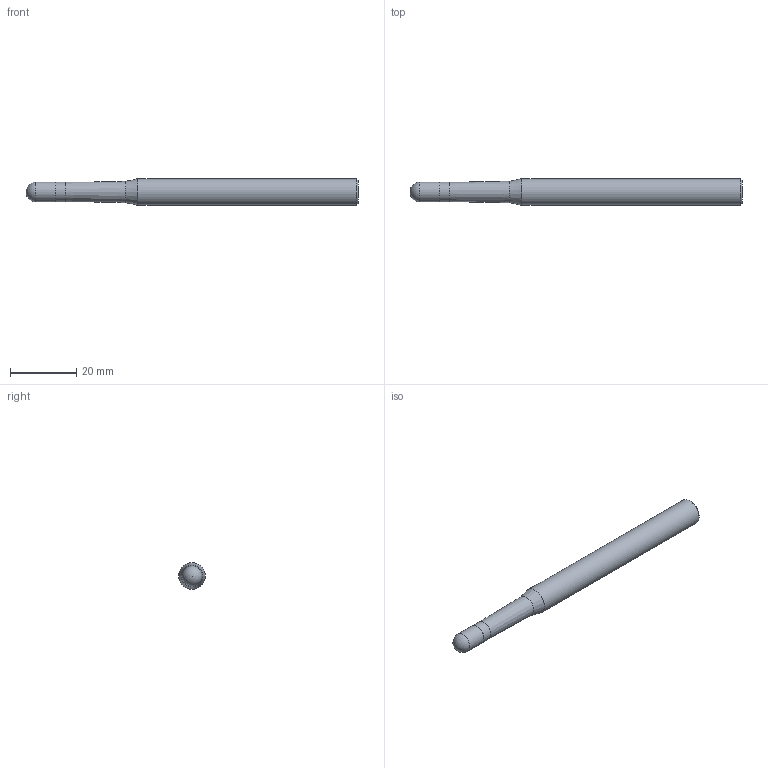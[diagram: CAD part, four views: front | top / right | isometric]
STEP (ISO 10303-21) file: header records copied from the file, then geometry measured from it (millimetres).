
FILE_DESCRIPTION(/* description */ (''),/* implementation_level */ '2;1');
FILE_NAME(/* name */ 'HGXPB2060-30-T0.9 08100.stp',/* time_stamp */ '2026-01-23T16:06:35+08:00',/* author */ (''),/* organization */ (''),/* preprocessor_version */ 'ST-DEVELOPER v16',/* originating_system */ 'SIEMENS PLM Software NX 10.0',/* authorisation */ '');
FILE_SCHEMA (('CONFIG_CONTROL_DESIGN'));
Length unit declared in the file: millimetre
Products named in the file (1): HGXPB2060-30-T0.9 08100_dxf
Bounding box: 100 x 8 x 8 mm (x, y, z)
Volume: 4320.9 mm3; surface area: 2369.1 mm2
Topology: 1 solids, 1 shells, 9 faces, 16 edges, 9 vertices
Faces by surface type: cylinder 3, cone 3, plane 2, sphere 1
Full cylindrical faces by diameter (mm): 5.85 x1, 6 x1, 8 x1
Entity records: 258 total; most frequent: DIRECTION 36, CARTESIAN_POINT 26, AXIS2_PLACEMENT_3D 18, EDGE_LOOP 16, ORIENTED_EDGE 16, FACE_BOUND 14, ADVANCED_FACE 9, VERTEX_POINT 8
